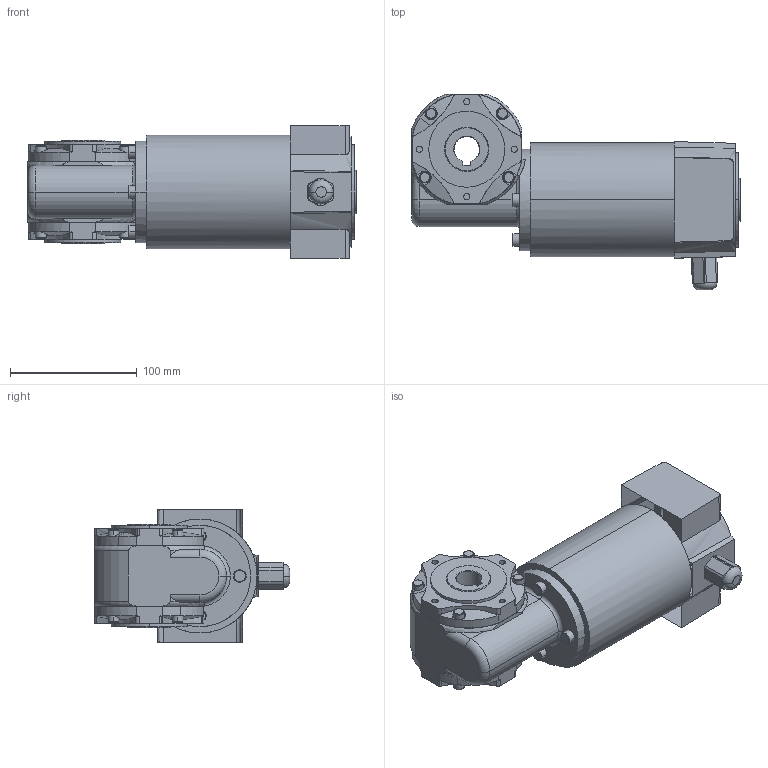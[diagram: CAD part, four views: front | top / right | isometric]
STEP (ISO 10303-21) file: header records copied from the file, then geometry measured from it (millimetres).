
FILE_DESCRIPTION(('OneSpaceDesigner STEP Export'),'2;1');
FILE_NAME('EPG21_GB140.stp','2008-07-15T10:30:37',(''),(''),'OneSpace Designer STEP processor (Jan. 2003) for AP214(CD)(Solid Model)','OneSpace Designer 12.01D 09-Jul-2004 (C) CoCreate Software GmbH','');
FILE_SCHEMA(('AUTOMOTIVE_DESIGN_CC2 {1 2 10303 214 -1 1 5 1}'));
Length unit declared in the file: millimetre
Products named in the file (2): EPG21_GB140
Assembly tree (1 placements, depth 2):
  EPG21_GB140
    EPG21_GB140
Bounding box: 259.5 x 154.49 x 105 mm (x, y, z)
Volume: 1684136.3 mm3; surface area: 112076.5 mm2
Topology: 1 solids, 1 shells, 302 faces, 772 edges, 503 vertices
Faces by surface type: cylinder 141, plane 101, cone 44, torus 14, bspline 2
Entity records: 16111 total; most frequent: CARTESIAN_POINT 9352, ORIENTED_EDGE 1544, DIRECTION 1103, EDGE_CURVE 772, VERTEX_POINT 503, AXIS2_PLACEMENT_3D 395, EDGE_LOOP 335, VECTOR 313
